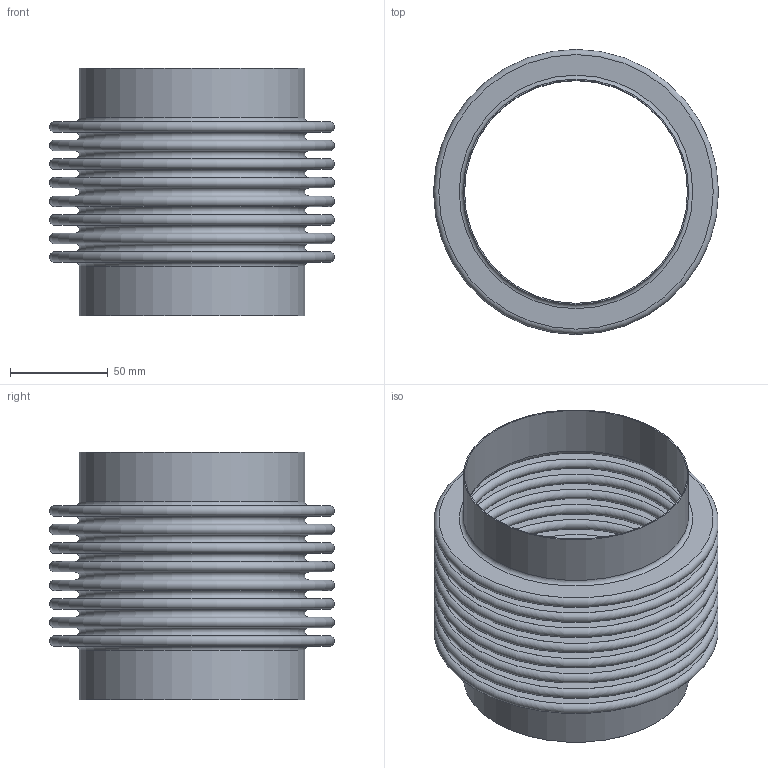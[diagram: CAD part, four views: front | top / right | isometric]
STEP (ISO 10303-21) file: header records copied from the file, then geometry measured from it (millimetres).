
FILE_DESCRIPTION(/* description */ (''),/* implementation_level */ '2;1');
FILE_NAME(/* name */ 'US-4-8-85S.stp',/* time_stamp */ '2026-07-21T11:09:41-05:00',/* author */ ('linda'),/* organization */ (''),/* preprocessor_version */ 'ST-DEVELOPER v20.1',/* originating_system */ 'Autodesk Inventor 2026',/* authorisation */ '');
FILE_SCHEMA (('AUTOMOTIVE_DESIGN { 1 0 10303 214 3 1 1 }'));
Length unit declared in the file: inch
Products named in the file (1): Part3
Bounding box: 146.05 x 146.05 x 127 mm (x, y, z)
Volume: 82913.2 mm3; surface area: 273345.3 mm2
Topology: 3 solids, 3 shells, 76 faces, 114 edges, 77 vertices
Faces by surface type: plane 38, torus 34, cylinder 4
Full cylindrical faces by diameter (mm): 114.3 x2, 115.519 x2
Entity records: 1899 total; most frequent: DIRECTION 378, CARTESIAN_POINT 268, ORIENTED_EDGE 228, AXIS2_PLACEMENT_3D 187, EDGE_LOOP 114, EDGE_CURVE 114, CIRCLE 110, STYLED_ITEM 79
